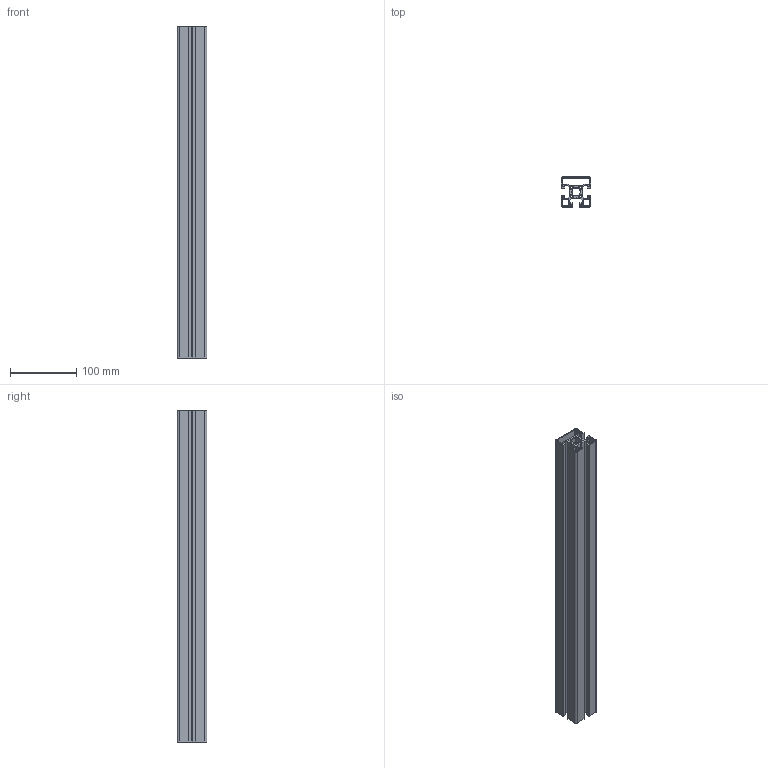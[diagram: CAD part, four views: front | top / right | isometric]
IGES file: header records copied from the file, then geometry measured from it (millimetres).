
Start section: SolidWorks IGES file using analytic representation for surfaces
Global section: file name: C:\Documents and Settings\Administrator\デスクトップ\指定保存後4回目\SolidWorks\SF\SF40・45\Frame\SFF-BE04.IGS; native system: SolidWorks 2006 by SolidWorks Corporation; preprocessor: SolidWorks 2006 by SolidWorks Corporation; author: Administrator; date: 061218.105736; units: millimetre
Bounding box: 45 x 45 x 500 mm (x, y, z)
Volume: 294792.1 mm3; surface area: 318726.6 mm2
Topology: 1 solids, 1 shells, 297 faces, 885 edges, 590 vertices
Faces by surface type: revolution 152, plane 145
